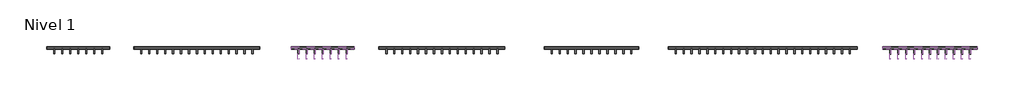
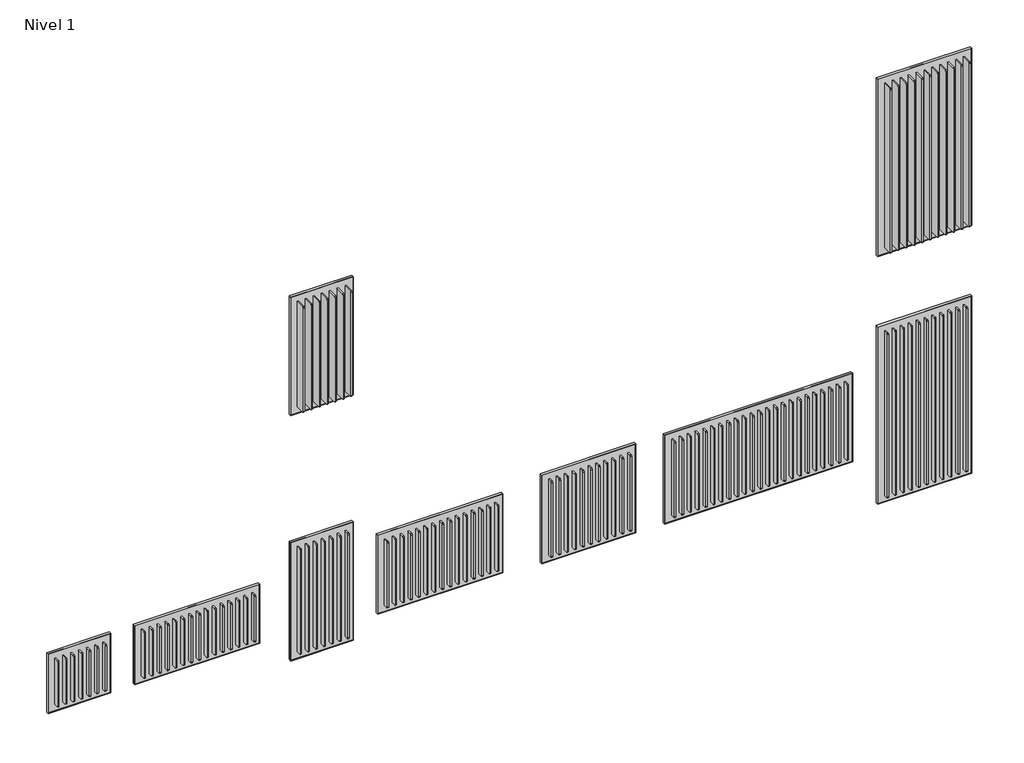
# One storey: 9 proxies.
"""IFC4 building model written with IfcOpenShell, lengths in millimetres."""

from ifc_helpers import new_model, si_unit, origin, place, context, project, spatial, transform, mapped, element, save
from components import generic_models_ba566e24, generic_models_e5c5eccd, generic_models_1e1d5cd4, generic_models_68504c34, generic_models_322be5bc, generic_models_f3aebc7d, generic_models_37f9fb91, generic_models_aef52470, generic_models_101371f0

model = new_model("IFC4")

# Units and contexts
model_context = context("Model", 3, world=origin())
ifc_project = project(units=[si_unit("LENGTHUNIT", "METRE", prefix="MILLI")], contexts=[model_context])

# Site, building, storey
site = spatial("IfcSite", under=ifc_project)
building = spatial("IfcBuilding", under=site)
storey = spatial("IfcBuildingStorey", under=building, Name="Nivel 1", Elevation=0.0)

# Proxies
placement = place(None, origin())
generic_models_shape = generic_models_ba566e24(model_context)
element("IfcBuildingElementProxy", 1, Name="Frame_Cascade 1.3dm", ObjectType="Frame_Cascade 1.3dm", at=placement, inside=storey, context=model_context, shape_type="MappedRepresentation", body=[
    mapped(generic_models_shape, transform((0.0, 0.0, 0.0), x_axis=(1.0, 0.0, 0.0), y_axis=(0.0, 1.0, 0.0), z_axis=(0.0, 0.0, 1.0))),
])
generic_models_2_shape = generic_models_e5c5eccd(model_context)
element("IfcBuildingElementProxy", 2, Name="Frame_Cascade 2.3dm", ObjectType="Frame_Cascade 2.3dm", at=placement, inside=storey, context=model_context, shape_type="MappedRepresentation", body=[
    mapped(generic_models_2_shape, transform((0.0, 0.0, 0.0), x_axis=(1.0, 0.0, 0.0), y_axis=(0.0, 1.0, 0.0), z_axis=(0.0, 0.0, 1.0))),
])
generic_models_3_shape = generic_models_1e1d5cd4(model_context)
element("IfcBuildingElementProxy", 3, Name="Frame_Cascade 4.3dm", ObjectType="Frame_Cascade 4.3dm", at=placement, inside=storey, context=model_context, shape_type="MappedRepresentation", body=[
    mapped(generic_models_3_shape, transform((0.0, 0.0, 0.0), x_axis=(1.0, 0.0, 0.0), y_axis=(0.0, 1.0, 0.0), z_axis=(0.0, 0.0, 1.0))),
])
generic_models_4_shape = generic_models_68504c34(model_context)
element("IfcBuildingElementProxy", 4, Name="Frame_Cascade 6.3dm", ObjectType="Frame_Cascade 6.3dm", at=placement, inside=storey, context=model_context, shape_type="MappedRepresentation", body=[
    mapped(generic_models_4_shape, transform((0.0, 0.0, 0.0), x_axis=(1.0, 0.0, 0.0), y_axis=(0.0, 1.0, 0.0), z_axis=(0.0, 0.0, 1.0))),
])
generic_models_5_shape = generic_models_322be5bc(model_context)
element("IfcBuildingElementProxy", 5, Name="Frame_Cascade 8.3dm", ObjectType="Frame_Cascade 8.3dm", at=placement, inside=storey, context=model_context, shape_type="MappedRepresentation", body=[
    mapped(generic_models_5_shape, transform((0.0, 0.0, 0.0), x_axis=(1.0, 0.0, 0.0), y_axis=(0.0, 1.0, 0.0), z_axis=(0.0, 0.0, 1.0))),
])
generic_models_6_shape = generic_models_f3aebc7d(model_context)
element("IfcBuildingElementProxy", 6, Name="Frame_Cascade 9.3dm", ObjectType="Frame_Cascade 9.3dm", at=placement, inside=storey, context=model_context, shape_type="MappedRepresentation", body=[
    mapped(generic_models_6_shape, transform((0.0, 0.0, 0.0), x_axis=(1.0, 0.0, 0.0), y_axis=(0.0, 1.0, 0.0), z_axis=(0.0, 0.0, 1.0))),
])
generic_models_7_shape = generic_models_37f9fb91(model_context)
element("IfcBuildingElementProxy", 7, Name="Frame_Cascade 11.3dm", ObjectType="Frame_Cascade 11.3dm", at=placement, inside=storey, context=model_context, shape_type="MappedRepresentation", body=[
    mapped(generic_models_7_shape, transform((0.0, 0.0, 0.0), x_axis=(1.0, 0.0, 0.0), y_axis=(0.0, 1.0, 0.0), z_axis=(0.0, 0.0, 1.0))),
])
generic_models_8_shape = generic_models_aef52470(model_context)
element("IfcBuildingElementProxy", 8, Name="Frame_Cascade 14.3dm", ObjectType="Frame_Cascade 14.3dm", at=placement, inside=storey, context=model_context, shape_type="MappedRepresentation", body=[
    mapped(generic_models_8_shape, transform((0.0, 0.0, 0.0), x_axis=(1.0, 0.0, 0.0), y_axis=(0.0, 1.0, 0.0), z_axis=(0.0, 0.0, 1.0))),
])
generic_models_9_shape = generic_models_101371f0(model_context)
element("IfcBuildingElementProxy", 9, Name="Frame_Cascade 15.3dm", ObjectType="Frame_Cascade 15.3dm", at=placement, inside=storey, context=model_context, shape_type="MappedRepresentation", body=[
    mapped(generic_models_9_shape, transform((0.0, 0.0, 0.0), x_axis=(1.0, 0.0, 0.0), y_axis=(0.0, 1.0, 0.0), z_axis=(0.0, 0.0, 1.0))),
])

save(model, "model.ifc")
